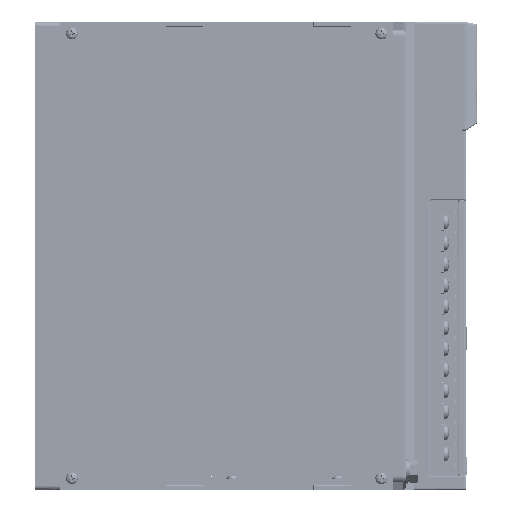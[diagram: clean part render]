
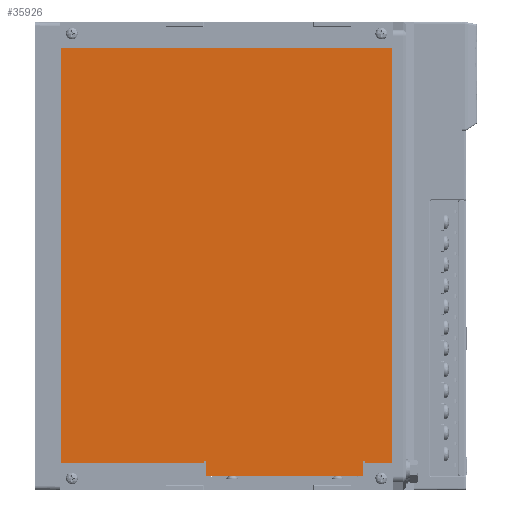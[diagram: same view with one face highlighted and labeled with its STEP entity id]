
A CAD part, left-side view. The second image highlights one B-rep face of the part: STEP entity #35926.
In plain terms, the highlighted planar face has unit normal (-1, 0, 0).
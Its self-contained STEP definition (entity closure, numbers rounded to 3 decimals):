
#4934=PLANE('',#244992);
#35926=ADVANCED_FACE('',(#43773),#4934,.T.);
#43773=FACE_OUTER_BOUND('',#52272,.T.);
#52272=EDGE_LOOP('',(#94373,#94374,#94375,#94376,#94377,#94378,#94379,#94380,
#94381,#94382,#94383,#94384));
#94373=ORIENTED_EDGE('',*,*,#140681,.T.);
#94374=ORIENTED_EDGE('',*,*,#140682,.T.);
#94375=ORIENTED_EDGE('',*,*,#140683,.T.);
#94376=ORIENTED_EDGE('',*,*,#140684,.T.);
#94377=ORIENTED_EDGE('',*,*,#140685,.T.);
#94378=ORIENTED_EDGE('',*,*,#140686,.T.);
#94379=ORIENTED_EDGE('',*,*,#140687,.T.);
#94380=ORIENTED_EDGE('',*,*,#140688,.T.);
#94381=ORIENTED_EDGE('',*,*,#140679,.F.);
#94382=ORIENTED_EDGE('',*,*,#140678,.F.);
#94383=ORIENTED_EDGE('',*,*,#140680,.F.);
#94384=ORIENTED_EDGE('',*,*,#140689,.T.);
#140678=EDGE_CURVE('',#233288,#233289,#187874,.T.);
#140679=EDGE_CURVE('',#233289,#233290,#187875,.T.);
#140680=EDGE_CURVE('',#233291,#233288,#187876,.T.);
#140681=EDGE_CURVE('',#233292,#233293,#187877,.T.);
#140682=EDGE_CURVE('',#233293,#233294,#187878,.T.);
#140683=EDGE_CURVE('',#233294,#233295,#187879,.T.);
#140684=EDGE_CURVE('',#233295,#233296,#187880,.T.);
#140685=EDGE_CURVE('',#233296,#233297,#187881,.T.);
#140686=EDGE_CURVE('',#233297,#233298,#187882,.T.);
#140687=EDGE_CURVE('',#233298,#233299,#187883,.T.);
#140688=EDGE_CURVE('',#233299,#233290,#187884,.T.);
#140689=EDGE_CURVE('',#233291,#233292,#187885,.T.);
#187874=B_SPLINE_CURVE_WITH_KNOTS('',1,(#548316,#548317),.UNSPECIFIED.,
 .F.,.F.,(2,2),(0.,74.3),.UNSPECIFIED.);
#187875=B_SPLINE_CURVE_WITH_KNOTS('',1,(#548318,#548319),.UNSPECIFIED.,
 .F.,.F.,(2,2),(-7.2,0.),.UNSPECIFIED.);
#187876=B_SPLINE_CURVE_WITH_KNOTS('',1,(#548320,#548321),.UNSPECIFIED.,
 .F.,.F.,(2,2),(-7.2,0.),.UNSPECIFIED.);
#187877=B_SPLINE_CURVE_WITH_KNOTS('',1,(#548322,#548323),.UNSPECIFIED.,
 .F.,.F.,(2,2),(0.,1.),.UNSPECIFIED.);
#187878=B_SPLINE_CURVE_WITH_KNOTS('',1,(#548324,#548325),.UNSPECIFIED.,
 .F.,.F.,(2,2),(-12.85,0.),.UNSPECIFIED.);
#187879=B_SPLINE_CURVE_WITH_KNOTS('',1,(#548326,#548327),.UNSPECIFIED.,
 .F.,.F.,(2,2),(-197.1,0.),.UNSPECIFIED.);
#187880=B_SPLINE_CURVE_WITH_KNOTS('',1,(#548328,#548329),.UNSPECIFIED.,
 .F.,.F.,(2,2),(-157.2,0.),.UNSPECIFIED.);
#187881=B_SPLINE_CURVE_WITH_KNOTS('',1,(#548330,#548331),.UNSPECIFIED.,
 .F.,.F.,(2,2),(-197.1,0.),.UNSPECIFIED.);
#187882=B_SPLINE_CURVE_WITH_KNOTS('',1,(#548332,#548333),.UNSPECIFIED.,
 .F.,.F.,(2,2),(-68.05,0.),.UNSPECIFIED.);
#187883=B_SPLINE_CURVE_WITH_KNOTS('',1,(#548334,#548335),.UNSPECIFIED.,
 .F.,.F.,(2,2),(0.,1.),.UNSPECIFIED.);
#187884=B_SPLINE_CURVE_WITH_KNOTS('',1,(#548336,#548337),.UNSPECIFIED.,
 .F.,.F.,(2,2),(0.,1.),.UNSPECIFIED.);
#187885=B_SPLINE_CURVE_WITH_KNOTS('',1,(#548338,#548339),.UNSPECIFIED.,
 .F.,.F.,(2,2),(0.,1.),.UNSPECIFIED.);
#233288=VERTEX_POINT('',#548304);
#233289=VERTEX_POINT('',#548305);
#233290=VERTEX_POINT('',#548306);
#233291=VERTEX_POINT('',#548307);
#233292=VERTEX_POINT('',#548308);
#233293=VERTEX_POINT('',#548309);
#233294=VERTEX_POINT('',#548310);
#233295=VERTEX_POINT('',#548311);
#233296=VERTEX_POINT('',#548312);
#233297=VERTEX_POINT('',#548313);
#233298=VERTEX_POINT('',#548314);
#233299=VERTEX_POINT('',#548315);
#244992=AXIS2_PLACEMENT_3D('',#548303,#248883,$);
#248883=DIRECTION('',(-1.,0.,0.));
#548303=CARTESIAN_POINT('',(-202.12,-189.964,-5.889));
#548304=CARTESIAN_POINT('',(-202.12,-160.334,14.501));
#548305=CARTESIAN_POINT('',(-202.12,-86.034,14.501));
#548306=CARTESIAN_POINT('',(-202.12,-86.034,21.701));
#548307=CARTESIAN_POINT('',(-202.12,-160.334,21.701));
#548308=CARTESIAN_POINT('',(-202.12,-161.334,21.701));
#548309=CARTESIAN_POINT('',(-202.12,-161.334,20.701));
#548310=CARTESIAN_POINT('',(-202.12,-174.184,20.701));
#548311=CARTESIAN_POINT('',(-202.12,-174.184,217.801));
#548312=CARTESIAN_POINT('',(-202.12,-16.984,217.801));
#548313=CARTESIAN_POINT('',(-202.12,-16.984,20.701));
#548314=CARTESIAN_POINT('',(-202.12,-85.034,20.701));
#548315=CARTESIAN_POINT('',(-202.12,-85.034,21.701));
#548316=CARTESIAN_POINT('',(-202.12,-160.334,14.501));
#548317=CARTESIAN_POINT('',(-202.12,-86.034,14.501));
#548318=CARTESIAN_POINT('',(-202.12,-86.034,14.501));
#548319=CARTESIAN_POINT('',(-202.12,-86.034,21.701));
#548320=CARTESIAN_POINT('',(-202.12,-160.334,21.701));
#548321=CARTESIAN_POINT('',(-202.12,-160.334,14.501));
#548322=CARTESIAN_POINT('',(-202.12,-161.334,21.701));
#548323=CARTESIAN_POINT('',(-202.12,-161.334,20.701));
#548324=CARTESIAN_POINT('',(-202.12,-161.334,20.701));
#548325=CARTESIAN_POINT('',(-202.12,-174.184,20.701));
#548326=CARTESIAN_POINT('',(-202.12,-174.184,20.701));
#548327=CARTESIAN_POINT('',(-202.12,-174.184,217.801));
#548328=CARTESIAN_POINT('',(-202.12,-174.184,217.801));
#548329=CARTESIAN_POINT('',(-202.12,-16.984,217.801));
#548330=CARTESIAN_POINT('',(-202.12,-16.984,217.801));
#548331=CARTESIAN_POINT('',(-202.12,-16.984,20.701));
#548332=CARTESIAN_POINT('',(-202.12,-16.984,20.701));
#548333=CARTESIAN_POINT('',(-202.12,-85.034,20.701));
#548334=CARTESIAN_POINT('',(-202.12,-85.034,20.701));
#548335=CARTESIAN_POINT('',(-202.12,-85.034,21.701));
#548336=CARTESIAN_POINT('',(-202.12,-85.034,21.701));
#548337=CARTESIAN_POINT('',(-202.12,-86.034,21.701));
#548338=CARTESIAN_POINT('',(-202.12,-160.334,21.701));
#548339=CARTESIAN_POINT('',(-202.12,-161.334,21.701));
